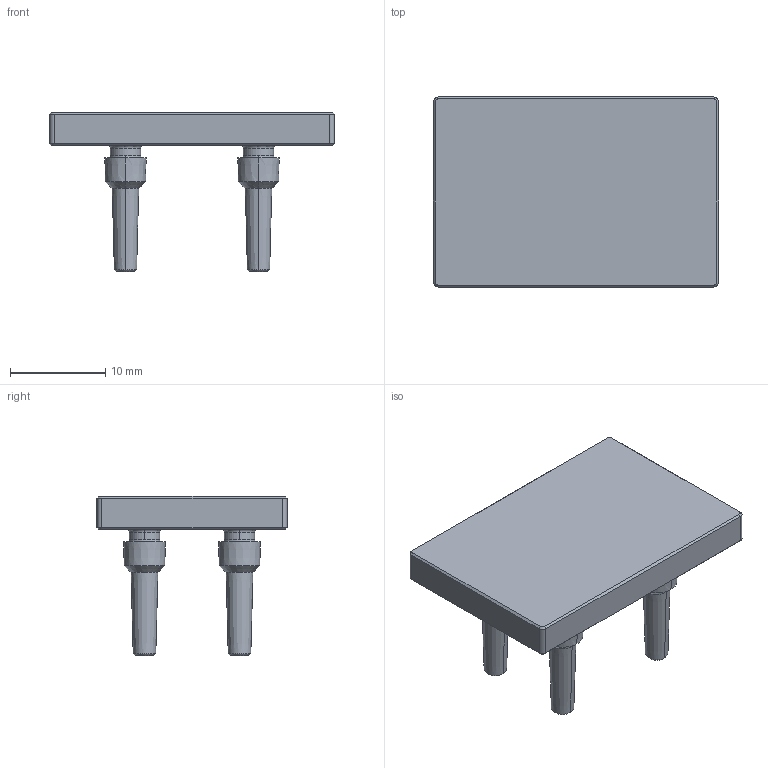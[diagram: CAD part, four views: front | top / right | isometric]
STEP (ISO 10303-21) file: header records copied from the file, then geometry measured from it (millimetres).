
FILE_DESCRIPTION (( 'STEP AP203' ), '1' );
FILE_NAME ('SIL-30G.STEP', '2023-10-16T05:56:33', ( '微软用户' ), ( '微软中国' ), 'SwSTEP 2.0', 'SolidWorks 2019', '' );
FILE_SCHEMA (( 'CONFIG_CONTROL_DESIGN' ));
Length unit declared in the file: millimetre
Products named in the file (1): SIL-30G
Bounding box: 30 x 20 x 16.8 mm (x, y, z)
Volume: 2501.4 mm3; surface area: 2046.8 mm2
Topology: 1 solids, 1 shells, 90 faces, 192 edges, 112 vertices
Faces by surface type: cone 40, plane 22, bspline 16, cylinder 12
Entity records: 2941 total; most frequent: CARTESIAN_POINT 955, DIRECTION 422, ORIENTED_EDGE 384, EDGE_CURVE 192, AXIS2_PLACEMENT_3D 171, VERTEX_POINT 112, EDGE_LOOP 98, CIRCLE 96
